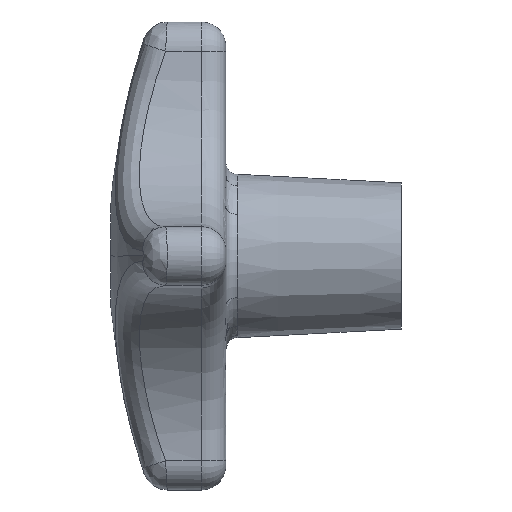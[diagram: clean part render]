
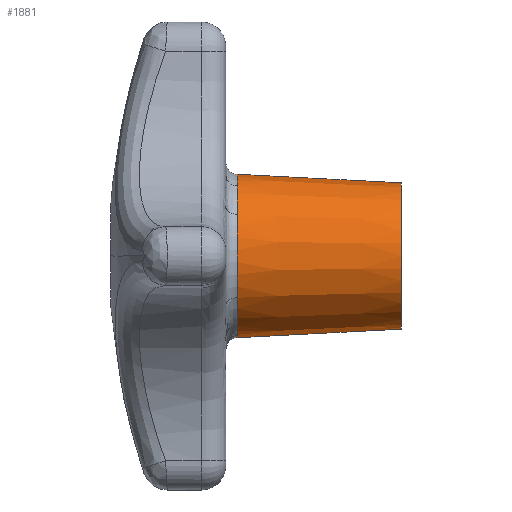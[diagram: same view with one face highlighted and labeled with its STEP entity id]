
A CAD part, left-side view. The second image highlights one B-rep face of the part: STEP entity #1881.
In plain terms, the highlighted conical face has half-angle 3 degrees and reference radius 12.5 mm.
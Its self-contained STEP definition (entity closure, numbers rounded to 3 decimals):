
#8 = CARTESIAN_POINT ( 'NONE',  ( 0., -1.974, 0. ) ) ;
#39 = DIRECTION ( 'NONE',  ( 0., 0.999, -0.052 ) ) ;
#65 = CARTESIAN_POINT ( 'NONE',  ( -11.999, -1.974, 7.152 ) ) ;
#153 = CARTESIAN_POINT ( 'NONE',  ( -9.482, -1.933, -10.277 ) ) ;
#165 = EDGE_CURVE ( 'NONE', #1974, #2121, #1928, .T. ) ;
#211 = CARTESIAN_POINT ( 'NONE',  ( -11.701, -1.974, 7.651 ) ) ;
#235 = CARTESIAN_POINT ( 'NONE',  ( -9.033, -1.941, 10.673 ) ) ;
#292 = EDGE_CURVE ( 'NONE', #1495, #1974, #1047, .T. ) ;
#320 = CARTESIAN_POINT ( 'NONE',  ( 0., -1.974, -13.969 ) ) ;
#339 = AXIS2_PLACEMENT_3D ( 'NONE', #1141, #908, #2105 ) ;
#407 = FACE_OUTER_BOUND ( 'NONE', #766, .T. ) ;
#459 = CARTESIAN_POINT ( 'NONE',  ( -7.152, -1.974, 11.999 ) ) ;
#469 = CARTESIAN_POINT ( 'NONE',  ( 0., -30., 12.5 ) ) ;
#490 = ORIENTED_EDGE ( 'NONE', *, *, #1602, .T. ) ;
#503 = VERTEX_POINT ( 'NONE', #2438 ) ;
#520 = DIRECTION ( 'NONE',  ( 0., 1., 0. ) ) ;
#598 = CARTESIAN_POINT ( 'NONE',  ( -11.377, -1.962, -8.127 ) ) ;
#689 = AXIS2_PLACEMENT_3D ( 'NONE', #8, #1388, #2544 ) ;
#766 = EDGE_LOOP ( 'NONE', ( #1642, #2728, #490, #1385, #1907, #1009, #1452, #2599 ) ) ;
#778 = DIRECTION ( 'NONE',  ( 0., 0.999, 0.052 ) ) ;
#790 = AXIS2_PLACEMENT_3D ( 'NONE', #1372, #1360, #2079 ) ;
#800 = CIRCLE ( 'NONE', #790, 13.969 ) ;
#807 = CARTESIAN_POINT ( 'NONE',  ( 0., -1.974, 0. ) ) ;
#819 = CARTESIAN_POINT ( 'NONE',  ( -8.13, -1.961, -11.375 ) ) ;
#827 = DIRECTION ( 'NONE',  ( 0., 0., -1. ) ) ;
#828 = CIRCLE ( 'NONE', #689, 13.969 ) ;
#837 = CARTESIAN_POINT ( 'NONE',  ( -10.673, -1.941, -9.033 ) ) ;
#867 = VERTEX_POINT ( 'NONE', #469 ) ;
#895 = CARTESIAN_POINT ( 'NONE',  ( -10.662, -1.94, 9.046 ) ) ;
#908 = DIRECTION ( 'NONE',  ( 0., 1., 0. ) ) ;
#925 = CARTESIAN_POINT ( 'NONE',  ( 0., -30., -12.5 ) ) ;
#958 = CARTESIAN_POINT ( 'NONE',  ( 0., -30., 0. ) ) ;
#991 = CARTESIAN_POINT ( 'NONE',  ( 0., -30., -12.5 ) ) ;
#1009 = ORIENTED_EDGE ( 'NONE', *, *, #292, .T. ) ;
#1047 = CIRCLE ( 'NONE', #1926, 13.969 ) ;
#1100 = CARTESIAN_POINT ( 'NONE',  ( -10.277, -1.933, 9.482 ) ) ;
#1141 = CARTESIAN_POINT ( 'NONE',  ( 0., -30., 0. ) ) ;
#1289 = CARTESIAN_POINT ( 'NONE',  ( -10.294, -1.933, -9.463 ) ) ;
#1360 = DIRECTION ( 'NONE',  ( 0., -1., 0. ) ) ;
#1372 = CARTESIAN_POINT ( 'NONE',  ( 0., -1.974, 0. ) ) ;
#1385 = ORIENTED_EDGE ( 'NONE', *, *, #1927, .T. ) ;
#1388 = DIRECTION ( 'NONE',  ( 0., -1., 0. ) ) ;
#1391 = EDGE_CURVE ( 'NONE', #2735, #1495, #2607, .T. ) ;
#1452 = ORIENTED_EDGE ( 'NONE', *, *, #165, .T. ) ;
#1495 = VERTEX_POINT ( 'NONE', #65 ) ;
#1523 = CARTESIAN_POINT ( 'NONE',  ( -11.702, -1.974, -7.651 ) ) ;
#1542 = CARTESIAN_POINT ( 'NONE',  ( -11.999, -1.974, -7.152 ) ) ;
#1556 = AXIS2_PLACEMENT_3D ( 'NONE', #958, #520, #2598 ) ;
#1579 = CARTESIAN_POINT ( 'NONE',  ( -8.127, -1.962, 11.377 ) ) ;
#1602 = EDGE_CURVE ( 'NONE', #867, #503, #2321, .T. ) ;
#1631 = VERTEX_POINT ( 'NONE', #320 ) ;
#1642 = ORIENTED_EDGE ( 'NONE', *, *, #2547, .F. ) ;
#1666 = CARTESIAN_POINT ( 'NONE',  ( -11.999, -1.974, -7.152 ) ) ;
#1695 = CARTESIAN_POINT ( 'NONE',  ( 0., -30., 12.5 ) ) ;
#1719 = CARTESIAN_POINT ( 'NONE',  ( -7.152, -1.974, 11.999 ) ) ;
#1798 = VECTOR ( 'NONE', #39, 1000. ) ;
#1840 = EDGE_CURVE ( 'NONE', #2121, #1631, #828, .T. ) ;
#1862 = CARTESIAN_POINT ( 'NONE',  ( -7.651, -1.974, 11.702 ) ) ;
#1881 = ADVANCED_FACE ( 'NONE', ( #407 ), #2031, .T. ) ;
#1907 = ORIENTED_EDGE ( 'NONE', *, *, #1391, .T. ) ;
#1926 = AXIS2_PLACEMENT_3D ( 'NONE', #807, #2647, #827 ) ;
#1927 = EDGE_CURVE ( 'NONE', #503, #2735, #800, .T. ) ;
#1928 = B_SPLINE_CURVE_WITH_KNOTS ( 'NONE', 3,
 ( #1542, #1523, #598, #837, #1289, #153, #2207, #819, #2218, #2719 ),
 .UNSPECIFIED., .F., .F.,
 ( 4, 2, 2, 2, 4 ),
 ( 0., 0.002, 0.003, 0.005, 0.007 ),
 .UNSPECIFIED. ) ;
#1974 = VERTEX_POINT ( 'NONE', #1666 ) ;
#2018 = EDGE_CURVE ( 'NONE', #2654, #867, #2153, .T. ) ;
#2031 = CONICAL_SURFACE ( 'NONE', #339, 12.5, 0.052 ) ;
#2057 = CARTESIAN_POINT ( 'NONE',  ( -11.999, -1.974, 7.152 ) ) ;
#2079 = DIRECTION ( 'NONE',  ( 0., 0., -1. ) ) ;
#2105 = DIRECTION ( 'NONE',  ( 0., 0., 1. ) ) ;
#2121 = VERTEX_POINT ( 'NONE', #2136 ) ;
#2136 = CARTESIAN_POINT ( 'NONE',  ( -7.152, -1.974, -11.999 ) ) ;
#2153 = CIRCLE ( 'NONE', #1556, 12.5 ) ;
#2207 = CARTESIAN_POINT ( 'NONE',  ( -9.046, -1.94, -10.662 ) ) ;
#2218 = CARTESIAN_POINT ( 'NONE',  ( -7.651, -1.974, -11.701 ) ) ;
#2274 = CARTESIAN_POINT ( 'NONE',  ( -9.463, -1.933, 10.294 ) ) ;
#2321 = LINE ( 'NONE', #1695, #2758 ) ;
#2438 = CARTESIAN_POINT ( 'NONE',  ( 0., -1.974, 13.969 ) ) ;
#2508 = LINE ( 'NONE', #925, #1798 ) ;
#2544 = DIRECTION ( 'NONE',  ( 0., 0., -1. ) ) ;
#2547 = EDGE_CURVE ( 'NONE', #2654, #1631, #2508, .T. ) ;
#2598 = DIRECTION ( 'NONE',  ( 0., 0., 1. ) ) ;
#2599 = ORIENTED_EDGE ( 'NONE', *, *, #1840, .T. ) ;
#2607 = B_SPLINE_CURVE_WITH_KNOTS ( 'NONE', 3,
 ( #459, #1862, #1579, #235, #2274, #1100, #895, #2745, #211, #2057 ),
 .UNSPECIFIED., .F., .F.,
 ( 4, 2, 2, 2, 4 ),
 ( 0., 0.002, 0.003, 0.005, 0.007 ),
 .UNSPECIFIED. ) ;
#2647 = DIRECTION ( 'NONE',  ( 0., -1., 0. ) ) ;
#2654 = VERTEX_POINT ( 'NONE', #991 ) ;
#2719 = CARTESIAN_POINT ( 'NONE',  ( -7.152, -1.974, -11.999 ) ) ;
#2728 = ORIENTED_EDGE ( 'NONE', *, *, #2018, .T. ) ;
#2735 = VERTEX_POINT ( 'NONE', #1719 ) ;
#2745 = CARTESIAN_POINT ( 'NONE',  ( -11.375, -1.961, 8.13 ) ) ;
#2758 = VECTOR ( 'NONE', #778, 1000. ) ;
